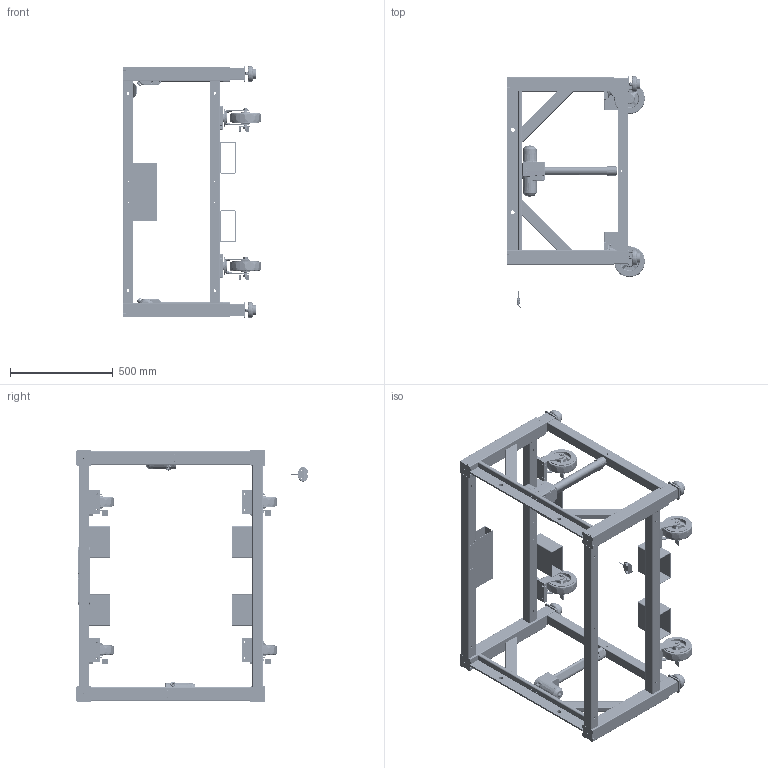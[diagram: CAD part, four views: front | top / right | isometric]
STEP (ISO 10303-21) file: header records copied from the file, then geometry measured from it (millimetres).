
FILE_DESCRIPTION (( 'STEP AP214' ), '1' );
FILE_NAME ('MB1200 48INX36INX26.5IN.STEP', '2020-01-21T12:31:45', ( '' ), ( '' ), 'SwSTEP 2.0', 'SolidWorks 2019', '' );
FILE_SCHEMA (( 'AUTOMOTIVE_DESIGN' ));
Length unit declared in the file: millimetre
Products named in the file (2): MB1200 48INX36INX26.5IN
Bounding box: 672.24 x 1126.27 x 1225.4 mm (x, y, z)
Surface area: 7844042.2 mm2 (no closed solid volume)
Topology: 0 solids, 151 shells, 5378 faces, 14521 edges, 9573 vertices
Faces by surface type: plane 2696, cylinder 1538, bspline 654, cone 386, torus 92, sphere 12
Full cylindrical faces by diameter (mm): 1.575 x8, 1.778 x8, 3 x4, 3.3 x8, 4 x2, 4.039 x4, 4.2 x6, 4.252 x8, 4.5 x2, 4.521 x8, 4.6 x1, 4.762 x4, 4.763 x4, 5 x36, 6 x10, 6.35 x4, 6.4 x8, 6.647 x4, 6.8 x23, 7 x2, 7.117 x8, 7.5 x2, 7.937 x2, 7.938 x2, 8 x2, 8.5 x4, 9 x8, 9.525 x8, 9.7 x4, 10.3 x4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
Entity records: 282455 total; most frequent: CARTESIAN_POINT 96382, ORIENTED_EDGE 26492, DIRECTION 23543, EDGE_CURVE 13418, VERTEX_POINT 9267, AXIS2_PLACEMENT_3D 8219, LINE 7105, VECTOR 7105
